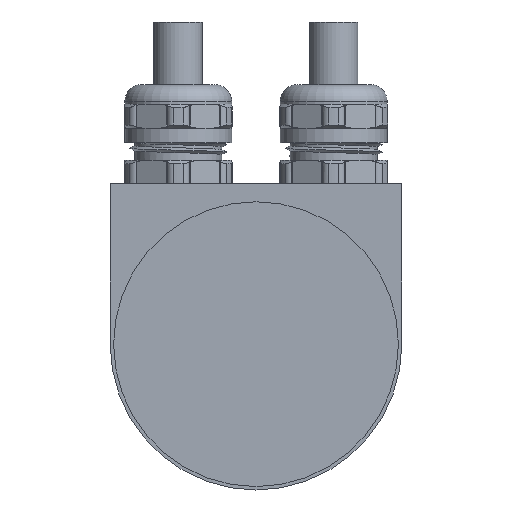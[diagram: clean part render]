
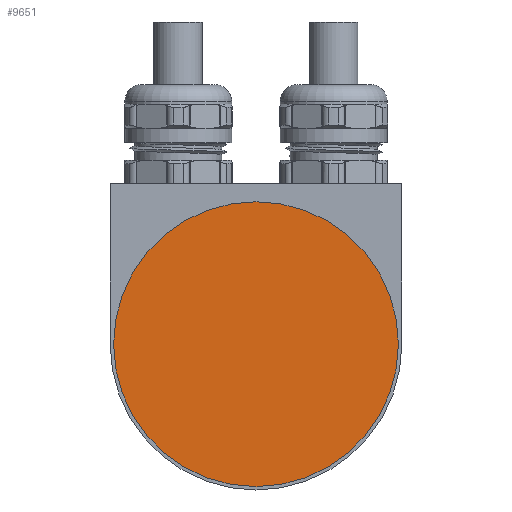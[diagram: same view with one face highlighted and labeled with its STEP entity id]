
A CAD part, front view. The second image highlights one B-rep face of the part: STEP entity #9651.
In plain terms, the highlighted planar face has unit normal (0, -1, 0).
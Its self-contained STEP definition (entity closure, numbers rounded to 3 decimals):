
#8873 = EDGE_CURVE ( 'NONE', #8933, #8989, #27963, .T. ) ;
#8933 = VERTEX_POINT ( 'NONE', #27955 ) ;
#8989 = VERTEX_POINT ( 'NONE', #27933 ) ;
#9651 = ADVANCED_FACE ( 'NONE', ( #28227 ), #28226, .F. ) ;
#10022 = ORIENTED_EDGE ( 'NONE', *, *, #10317, .F. ) ;
#10035 = ORIENTED_EDGE ( 'NONE', *, *, #8873, .F. ) ;
#10317 = EDGE_CURVE ( 'NONE', #8989, #8933, #28479, .T. ) ;
#10478 = EDGE_LOOP ( 'NONE', ( #10022, #10035 ) ) ;
#27933 = CARTESIAN_POINT ( 'NONE',  ( 0., 0., -29.3 ) ) ;
#27955 = CARTESIAN_POINT ( 'NONE',  ( 0., 0., 29.3 ) ) ;
#27957 = DIRECTION ( 'NONE',  ( 0., 0., 1. ) ) ;
#27959 = DIRECTION ( 'NONE',  ( 0., 1., 0. ) ) ;
#27960 = CARTESIAN_POINT ( 'NONE',  ( 0., 0., 0. ) ) ;
#27962 = AXIS2_PLACEMENT_3D ( 'NONE', #27960, #27959, #27957 ) ;
#27963 = CIRCLE ( 'NONE', #27962, 29.3 ) ;
#28220 = DIRECTION ( 'NONE',  ( 0., 0., 1. ) ) ;
#28221 = DIRECTION ( 'NONE',  ( 0., 1., 0. ) ) ;
#28222 = CARTESIAN_POINT ( 'NONE',  ( 0., 0., 0. ) ) ;
#28223 = AXIS2_PLACEMENT_3D ( 'NONE', #28222, #28221, #28220 ) ;
#28226 = PLANE ( 'NONE',  #28223 ) ;
#28227 = FACE_OUTER_BOUND ( 'NONE', #10478, .T. ) ;
#28475 = DIRECTION ( 'NONE',  ( 0., 0., 1. ) ) ;
#28476 = DIRECTION ( 'NONE',  ( 0., 1., 0. ) ) ;
#28477 = CARTESIAN_POINT ( 'NONE',  ( 0., 0., 0. ) ) ;
#28478 = AXIS2_PLACEMENT_3D ( 'NONE', #28477, #28476, #28475 ) ;
#28479 = CIRCLE ( 'NONE', #28478, 29.3 ) ;
